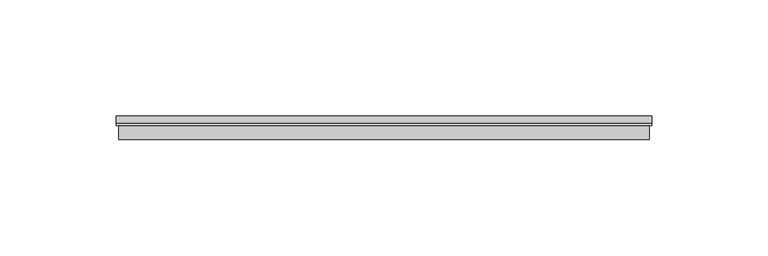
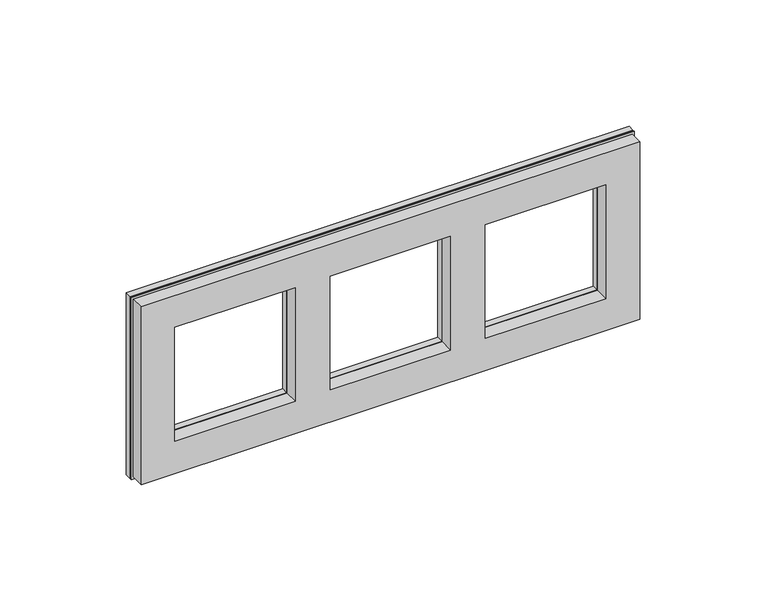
"""IFC4 building model written with IfcOpenShell, lengths in millimetres: proxy geometry, IEK_Brite_Рамка : x2_РУ-3-Бр бел. рифленый."""

from ifc_helpers import new_model, si_unit, frame, origin, place, context, project, spatial, polyline, outline, extrude, faceted_brep, source, transform, mapped, element, save


def electrical_fixtures_fd6ee7d0(model_context):
    return source(origin(), model_context, "Body", "SolidModel", [
        extrude(outline(polyline([(44.0, -186.0), (-44.0, -186.0), (-44.0, 44.0), (44.0, 44.0), (44.0, -186.0)]), holes=[polyline([(-27.5, -98.5), (27.5, -98.5), (27.5, -43.5), (-27.5, -43.5), (-27.5, -98.5)]), polyline([(-27.5, -169.5), (27.5, -169.5), (27.5, -114.5), (-27.5, -114.5), (-27.5, -169.5)]), polyline([(-27.5, -27.5), (27.5, -27.5), (27.5, 27.5), (-27.5, 27.5), (-27.5, -27.5)])]), frame((0.0, 7.0, 0.0), z_axis=(0.0, 1.0, 0.0), x_axis=(0.0, 0.0, 1.0)), (0.0, 0.0, 1.0), 3.0),
        faceted_brep([(-186.0, 7.0, 44.0), (44.0, 7.0, 44.0), (44.0, 7.0, -44.0), (-186.0, 7.0, -44.0), (-169.5, 7.0, 27.5), (-169.5, 7.0, -27.5), (-114.5, 7.0, -27.5), (-114.5, 7.0, 27.5), (-98.5, 7.0, 27.5), (-98.5, 7.0, -27.5), (-43.5, 7.0, -27.5), (-43.5, 7.0, 27.5), (-27.5, 7.0, 27.5), (-27.5, 7.0, -27.5), (27.5, 7.0, -27.5), (27.5, 7.0, 27.5), (-185.0, 0.0, 43.0), (-185.0, 0.0, -43.0), (43.0, 0.0, -43.0), (43.0, 0.0, 43.0), (-169.5, 0.0, -27.5), (-169.5, 0.0, 27.5), (-114.5, 0.0, 27.5), (-114.5, 0.0, -27.5), (-98.5, 0.0, -27.5), (-98.5, 0.0, 27.5), (-43.5, 0.0, 27.5), (-43.5, 0.0, -27.5), (-27.5, 0.0, -27.5), (-27.5, 0.0, 27.5), (27.5, 0.0, 27.5), (27.5, 0.0, -27.5), (-185.0, 6.0, 43.0), (-185.0, 6.0, -43.0), (43.0, 6.0, -43.0), (43.0, 6.0, 43.0), (-186.0, 6.0, 44.0), (-186.0, 6.0, -44.0), (44.0, 6.0, -44.0), (44.0, 6.0, 44.0)], [[[0, 1, 2, 3], [4, 5, 6, 7], [8, 9, 10, 11], [12, 13, 14, 15]], [[16, 17, 18, 19], [20, 21, 22, 23], [24, 25, 26, 27], [28, 29, 30, 31]], [[17, 16, 32, 33]], [[18, 17, 33, 34]], [[19, 18, 34, 35]], [[16, 19, 35, 32]], [[36, 37, 38, 39], [33, 32, 35, 34]], [[37, 36, 0, 3]], [[38, 37, 3, 2]], [[39, 38, 2, 1]], [[36, 39, 1, 0]], [[4, 21, 20, 5]], [[5, 20, 23, 6]], [[6, 23, 22, 7]], [[21, 4, 7, 22]], [[8, 25, 24, 9]], [[9, 24, 27, 10]], [[10, 27, 26, 11]], [[25, 8, 11, 26]], [[12, 29, 28, 13]], [[13, 28, 31, 14]], [[14, 31, 30, 15]], [[29, 12, 15, 30]]]),
    ])


if __name__ == "__main__":
    model = new_model("IFC4")
    model_context = context("Model", 3, world=origin())
    ifc_project = project(units=[si_unit("LENGTHUNIT", "METRE", prefix="MILLI")], contexts=[model_context])
    site = spatial("IfcSite", under=ifc_project)
    building = spatial("IfcBuilding", under=site)
    placement = place(None, origin())
    electrical_fixtures_shape = electrical_fixtures_fd6ee7d0(model_context)
    element("IfcBuildingElementProxy", 1, Name="IEK_Brite_Рамка : x2_РУ-3-Бр бел. рифленый", ObjectType="IEK_Brite_Рамка : x2_РУ-3-Бр бел. рифленый", at=placement, inside=building, context=model_context, shape_type="MappedRepresentation", body=[
        mapped(electrical_fixtures_shape, transform((0.0, 0.0, 0.0), x_axis=(1.0, 0.0, 0.0), y_axis=(0.0, 1.0, 0.0), z_axis=(0.0, 0.0, 1.0))),
    ])
    save(model, "model.ifc")
